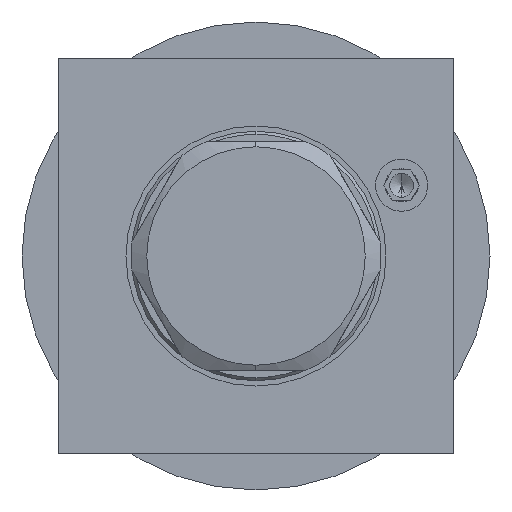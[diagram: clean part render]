
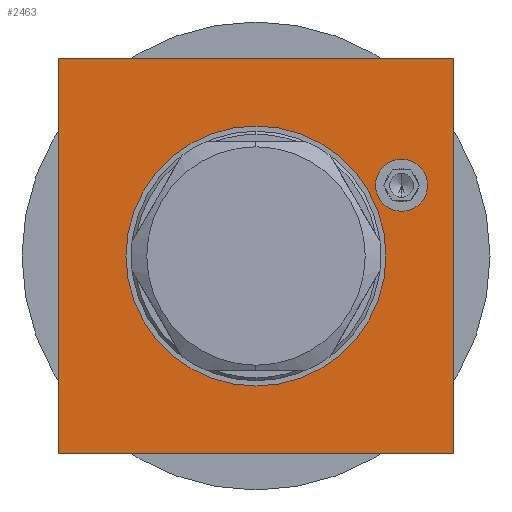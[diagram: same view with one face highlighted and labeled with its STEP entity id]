
A CAD part, left-side view. The second image highlights one B-rep face of the part: STEP entity #2463.
In plain terms, the highlighted planar face has unit normal (-1, 0, 0).
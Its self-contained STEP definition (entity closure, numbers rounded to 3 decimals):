
#192 = DIRECTION ( 'NONE',  ( 0., 0., -1. ) ) ;
#500 = CARTESIAN_POINT ( 'NONE',  ( 0., -19., 19. ) ) ;
#520 = ORIENTED_EDGE ( 'NONE', *, *, #14333, .F. ) ;
#867 = EDGE_CURVE ( 'NONE', #6528, #6758, #5060, .T. ) ;
#869 = AXIS2_PLACEMENT_3D ( 'NONE', #13636, #5945, #14930 ) ;
#1679 = VECTOR ( 'NONE', #4775, 1000. ) ;
#1750 = EDGE_CURVE ( 'NONE', #13626, #9346, #3193, .T. ) ;
#1771 = DIRECTION ( 'NONE',  ( 0., 0., -1. ) ) ;
#2154 = CIRCLE ( 'NONE', #9995, 2.5 ) ;
#2463 = ADVANCED_FACE ( 'NONE', ( #7132, #13962, #10512 ), #9396, .F. ) ;
#2505 = CIRCLE ( 'NONE', #9855, 12.5 ) ;
#2764 = EDGE_LOOP ( 'NONE', ( #2778, #4572 ) ) ;
#2778 = ORIENTED_EDGE ( 'NONE', *, *, #867, .F. ) ;
#3016 = CARTESIAN_POINT ( 'NONE',  ( 0., -19., -19. ) ) ;
#3193 = LINE ( 'NONE', #13389, #10003 ) ;
#3481 = CIRCLE ( 'NONE', #10393, 12.5 ) ;
#3738 = DIRECTION ( 'NONE',  ( -1., 0., 0. ) ) ;
#4572 = ORIENTED_EDGE ( 'NONE', *, *, #5920, .F. ) ;
#4585 = ORIENTED_EDGE ( 'NONE', *, *, #15107, .F. ) ;
#4775 = DIRECTION ( 'NONE',  ( 0., 1., 0. ) ) ;
#4976 = ORIENTED_EDGE ( 'NONE', *, *, #9383, .F. ) ;
#4993 = CARTESIAN_POINT ( 'NONE',  ( 0., -14., 4.3 ) ) ;
#5058 = EDGE_CURVE ( 'NONE', #6540, #13626, #8566, .T. ) ;
#5060 = CIRCLE ( 'NONE', #869, 2.5 ) ;
#5557 = DIRECTION ( 'NONE',  ( 0., -1., 0. ) ) ;
#5572 = VECTOR ( 'NONE', #192, 1000. ) ;
#5869 = EDGE_CURVE ( 'NONE', #12970, #6540, #15841, .T. ) ;
#5920 = EDGE_CURVE ( 'NONE', #6758, #6528, #2154, .T. ) ;
#5945 = DIRECTION ( 'NONE',  ( -1., 0., 0. ) ) ;
#6212 = CARTESIAN_POINT ( 'NONE',  ( 0., 0., 0. ) ) ;
#6225 = VERTEX_POINT ( 'NONE', #9979 ) ;
#6324 = EDGE_LOOP ( 'NONE', ( #520, #4976 ) ) ;
#6528 = VERTEX_POINT ( 'NONE', #6823 ) ;
#6540 = VERTEX_POINT ( 'NONE', #3016 ) ;
#6738 = CARTESIAN_POINT ( 'NONE',  ( 0., -14., 6.8 ) ) ;
#6758 = VERTEX_POINT ( 'NONE', #4993 ) ;
#6823 = CARTESIAN_POINT ( 'NONE',  ( 0., -14., 9.3 ) ) ;
#6835 = AXIS2_PLACEMENT_3D ( 'NONE', #500, #9491, #1771 ) ;
#6881 = VECTOR ( 'NONE', #5557, 1000. ) ;
#6945 = CARTESIAN_POINT ( 'NONE',  ( 0., 12.5, 0. ) ) ;
#7132 = FACE_BOUND ( 'NONE', #2764, .T. ) ;
#7526 = DIRECTION ( 'NONE',  ( 0., -1., 0. ) ) ;
#7752 = VERTEX_POINT ( 'NONE', #6945 ) ;
#8036 = DIRECTION ( 'NONE',  ( 0., 0., 1. ) ) ;
#8292 = DIRECTION ( 'NONE',  ( 0., 0., 1. ) ) ;
#8535 = ORIENTED_EDGE ( 'NONE', *, *, #5058, .F. ) ;
#8566 = LINE ( 'NONE', #12449, #1679 ) ;
#9346 = VERTEX_POINT ( 'NONE', #11029 ) ;
#9383 = EDGE_CURVE ( 'NONE', #7752, #6225, #3481, .T. ) ;
#9396 = PLANE ( 'NONE',  #6835 ) ;
#9491 = DIRECTION ( 'NONE',  ( 1., 0., 0. ) ) ;
#9855 = AXIS2_PLACEMENT_3D ( 'NONE', #11401, #3738, #12706 ) ;
#9979 = CARTESIAN_POINT ( 'NONE',  ( 0., -12.5, 0. ) ) ;
#9995 = AXIS2_PLACEMENT_3D ( 'NONE', #6738, #15739, #8036 ) ;
#10003 = VECTOR ( 'NONE', #8292, 1000. ) ;
#10393 = AXIS2_PLACEMENT_3D ( 'NONE', #6212, #15196, #7526 ) ;
#10512 = FACE_BOUND ( 'NONE', #6324, .T. ) ;
#11029 = CARTESIAN_POINT ( 'NONE',  ( 0., 19., 19. ) ) ;
#11401 = CARTESIAN_POINT ( 'NONE',  ( 0., 0., 0. ) ) ;
#12449 = CARTESIAN_POINT ( 'NONE',  ( 0., 19., -19. ) ) ;
#12706 = DIRECTION ( 'NONE',  ( 0., -1., 0. ) ) ;
#12970 = VERTEX_POINT ( 'NONE', #16105 ) ;
#13010 = ORIENTED_EDGE ( 'NONE', *, *, #1750, .F. ) ;
#13022 = ORIENTED_EDGE ( 'NONE', *, *, #5869, .F. ) ;
#13240 = CARTESIAN_POINT ( 'NONE',  ( 0., 19., 19. ) ) ;
#13389 = CARTESIAN_POINT ( 'NONE',  ( 0., 19., 19. ) ) ;
#13626 = VERTEX_POINT ( 'NONE', #15170 ) ;
#13636 = CARTESIAN_POINT ( 'NONE',  ( 0., -14., 6.8 ) ) ;
#13730 = LINE ( 'NONE', #13240, #6881 ) ;
#13962 = FACE_OUTER_BOUND ( 'NONE', #16404, .T. ) ;
#14333 = EDGE_CURVE ( 'NONE', #6225, #7752, #2505, .T. ) ;
#14930 = DIRECTION ( 'NONE',  ( 0., 0., 1. ) ) ;
#15107 = EDGE_CURVE ( 'NONE', #9346, #12970, #13730, .T. ) ;
#15170 = CARTESIAN_POINT ( 'NONE',  ( 0., 19., -19. ) ) ;
#15196 = DIRECTION ( 'NONE',  ( -1., 0., 0. ) ) ;
#15676 = CARTESIAN_POINT ( 'NONE',  ( 0., -19., 19. ) ) ;
#15739 = DIRECTION ( 'NONE',  ( -1., 0., 0. ) ) ;
#15841 = LINE ( 'NONE', #15676, #5572 ) ;
#16105 = CARTESIAN_POINT ( 'NONE',  ( 0., -19., 19. ) ) ;
#16404 = EDGE_LOOP ( 'NONE', ( #4585, #13010, #8535, #13022 ) ) ;
